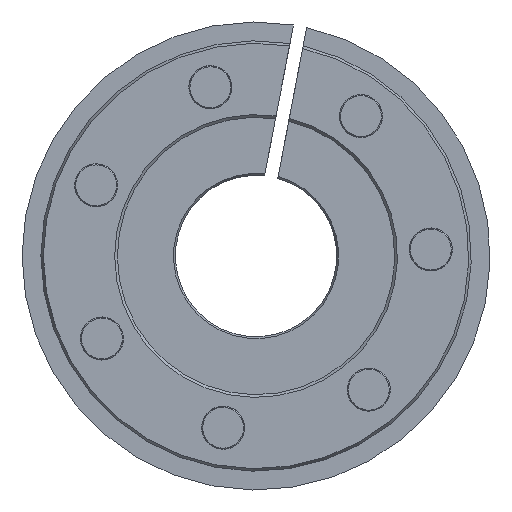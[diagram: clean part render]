
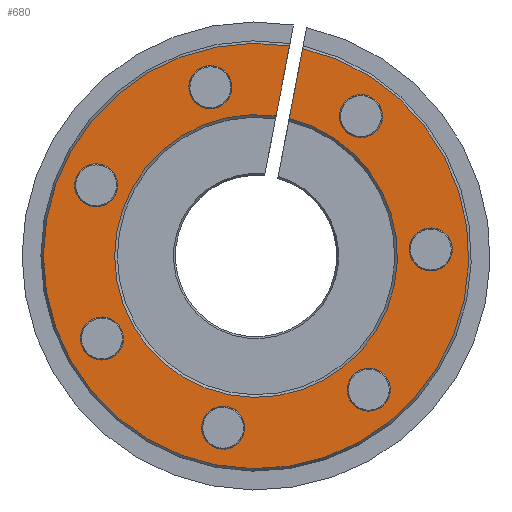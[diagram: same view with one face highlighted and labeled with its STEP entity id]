
A CAD part, left-side view. The second image highlights one B-rep face of the part: STEP entity #680.
In plain terms, the highlighted planar face has unit normal (-1, 0, 0) as drawn and (1, 0, 0) by its records, which use the part's own axes.
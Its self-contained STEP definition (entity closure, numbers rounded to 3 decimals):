
#112=CARTESIAN_POINT('',(10.,65.257,24.453));
#113=VERTEX_POINT('',#112);
#114=CARTESIAN_POINT('',(10.,65.257,20.453));
#115=DIRECTION('',(-1.0,0.0,0.0));
#116=DIRECTION('',(0.0,0.0,-1.0));
#117=AXIS2_PLACEMENT_3D('',#114,#115,#116);
#118=CIRCLE('',#117,4.);
#119=EDGE_CURVE('',#113,#113,#118,.T.);
#140=CARTESIAN_POINT('',(10.,54.247,-25.211));
#141=VERTEX_POINT('',#140);
#142=CARTESIAN_POINT('',(10.,54.247,-29.211));
#143=DIRECTION('',(-1.0,0.0,0.0));
#144=DIRECTION('',(0.0,0.0,-1.0));
#145=AXIS2_PLACEMENT_3D('',#142,#143,#144);
#146=CIRCLE('',#145,4.);
#147=EDGE_CURVE('',#141,#141,#146,.T.);
#168=CARTESIAN_POINT('',(10.,25.753,-25.211));
#169=VERTEX_POINT('',#168);
#170=CARTESIAN_POINT('',(10.,25.753,-29.211));
#171=DIRECTION('',(-1.0,0.0,0.0));
#172=DIRECTION('',(0.0,0.0,-1.0));
#173=AXIS2_PLACEMENT_3D('',#170,#171,#172);
#174=CIRCLE('',#173,4.);
#175=EDGE_CURVE('',#169,#169,#174,.T.);
#196=CARTESIAN_POINT('',(10.,40.0,36.5));
#197=VERTEX_POINT('',#196);
#198=CARTESIAN_POINT('',(10.,40.0,32.5));
#199=DIRECTION('',(-1.0,0.0,0.0));
#200=DIRECTION('',(0.0,0.0,-1.0));
#201=AXIS2_PLACEMENT_3D('',#198,#199,#200);
#202=CIRCLE('',#201,4.0);
#203=EDGE_CURVE('',#197,#197,#202,.T.);
#273=CARTESIAN_POINT('',(10.,38.75,-26.25));
#274=VERTEX_POINT('',#273);
#281=CARTESIAN_POINT('',(10.,38.75,-39.518));
#282=VERTEX_POINT('',#281);
#283=CARTESIAN_POINT('',(10.,38.75,-39.518));
#284=DIRECTION('',(0.0,0.0,1.0));
#285=VECTOR('',#284,13.268);
#286=LINE('',#283,#285);
#287=EDGE_CURVE('',#282,#274,#286,.T.);
#329=CARTESIAN_POINT('',(10.,41.25,-39.518));
#330=VERTEX_POINT('',#329);
#337=CARTESIAN_POINT('',(10.,41.25,-26.25));
#338=VERTEX_POINT('',#337);
#339=CARTESIAN_POINT('',(10.,41.25,-26.25));
#340=DIRECTION('',(0.0,0.0,-1.0));
#341=VECTOR('',#340,13.268);
#342=LINE('',#339,#341);
#343=EDGE_CURVE('',#338,#330,#342,.T.);
#398=CARTESIAN_POINT('',(10.,8.333,-3.311));
#399=VERTEX_POINT('',#398);
#400=CARTESIAN_POINT('',(10.,8.333,-7.311));
#401=DIRECTION('',(-1.0,0.0,0.0));
#402=DIRECTION('',(0.0,0.0,-1.0));
#403=AXIS2_PLACEMENT_3D('',#400,#401,#402);
#404=CIRCLE('',#403,4.0);
#405=EDGE_CURVE('',#399,#399,#404,.T.);
#426=CARTESIAN_POINT('',(10.,14.743,24.453));
#427=VERTEX_POINT('',#426);
#428=CARTESIAN_POINT('',(10.,14.743,20.453));
#429=DIRECTION('',(-1.0,0.0,0.0));
#430=DIRECTION('',(0.0,0.0,-1.0));
#431=AXIS2_PLACEMENT_3D('',#428,#429,#430);
#432=CIRCLE('',#431,4.);
#433=EDGE_CURVE('',#427,#427,#432,.T.);
#454=CARTESIAN_POINT('',(10.,71.667,-3.311));
#455=VERTEX_POINT('',#454);
#456=CARTESIAN_POINT('',(10.,71.667,-7.311));
#457=DIRECTION('',(-1.0,0.0,0.0));
#458=DIRECTION('',(0.0,0.0,-1.0));
#459=AXIS2_PLACEMENT_3D('',#456,#457,#458);
#460=CIRCLE('',#459,4.);
#461=EDGE_CURVE('',#455,#455,#460,.T.);
#509=CARTESIAN_POINT('',(10.,40.0,0.0));
#510=DIRECTION('',(-1.0,0.0,0.0));
#511=DIRECTION('',(0.0,-1.0,0.0));
#512=AXIS2_PLACEMENT_3D('',#509,#510,#511);
#513=CIRCLE('',#512,39.538);
#514=EDGE_CURVE('',#282,#330,#513,.T.);
#636=CARTESIAN_POINT('',(10.,40.0,0.0));
#637=DIRECTION('',(-1.0,0.0,0.0));
#638=DIRECTION('',(0.0,-1.0,0.0));
#639=AXIS2_PLACEMENT_3D('',#636,#637,#638);
#640=CIRCLE('',#639,26.28);
#641=EDGE_CURVE('',#274,#338,#640,.T.);
#648=CARTESIAN_POINT('',(10.,7.091,0.0));
#649=DIRECTION('',(1.0,0.0,0.0));
#650=DIRECTION('',(0.0,0.0,-1.0));
#651=AXIS2_PLACEMENT_3D('',#648,#649,#650);
#652=PLANE('',#651);
#653=ORIENTED_EDGE('',*,*,#343,.T.);
#654=ORIENTED_EDGE('',*,*,#514,.F.);
#655=ORIENTED_EDGE('',*,*,#287,.T.);
#656=ORIENTED_EDGE('',*,*,#641,.T.);
#657=EDGE_LOOP('',(#653,#654,#655,#656));
#658=FACE_OUTER_BOUND('',#657,.T.);
#659=ORIENTED_EDGE('',*,*,#119,.T.);
#660=EDGE_LOOP('',(#659));
#661=FACE_BOUND('',#660,.T.);
#662=ORIENTED_EDGE('',*,*,#147,.T.);
#663=EDGE_LOOP('',(#662));
#664=FACE_BOUND('',#663,.T.);
#665=ORIENTED_EDGE('',*,*,#175,.T.);
#666=EDGE_LOOP('',(#665));
#667=FACE_BOUND('',#666,.T.);
#668=ORIENTED_EDGE('',*,*,#203,.T.);
#669=EDGE_LOOP('',(#668));
#670=FACE_BOUND('',#669,.T.);
#671=ORIENTED_EDGE('',*,*,#405,.T.);
#672=EDGE_LOOP('',(#671));
#673=FACE_BOUND('',#672,.T.);
#674=ORIENTED_EDGE('',*,*,#433,.T.);
#675=EDGE_LOOP('',(#674));
#676=FACE_BOUND('',#675,.T.);
#677=ORIENTED_EDGE('',*,*,#461,.T.);
#678=EDGE_LOOP('',(#677));
#679=FACE_BOUND('',#678,.T.);
#680=ADVANCED_FACE('',(#658,#661,#664,#667,#670,#673,#676,#679),#652,.T.);
